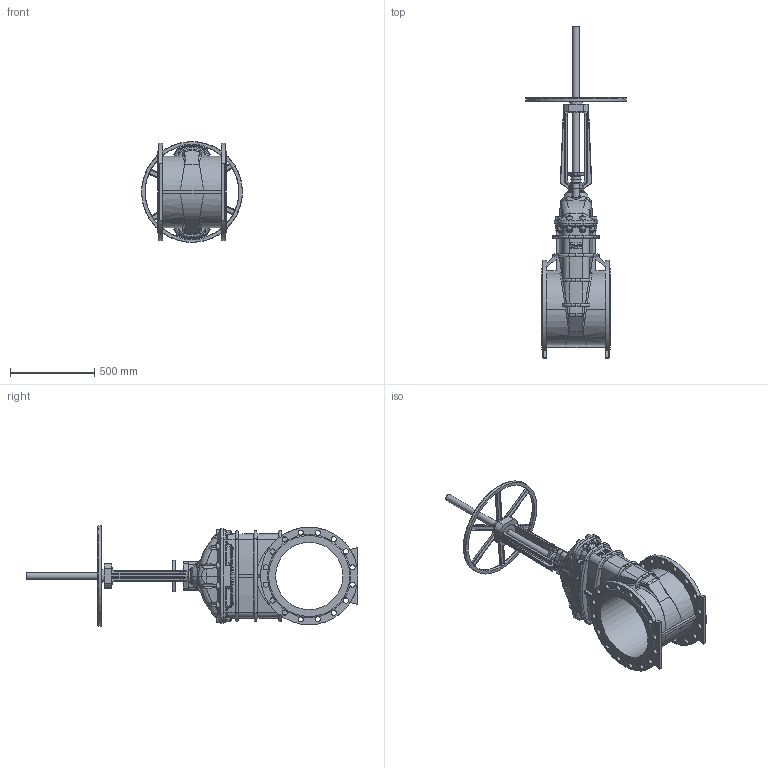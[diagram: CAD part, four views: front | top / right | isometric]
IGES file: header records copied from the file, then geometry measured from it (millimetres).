
Start section: SolidWorks IGES file using analytic representation for surfaces
Global section: file name: \\avksan2\techshare\PBM outline export from Enovia\O_21_34_DN400_41XXXXX open_AA0.igs; native system: SolidWorks 2012; preprocessor: SolidWorks 2012; author: pbm; date: 200212.105454; units: millimetre
Bounding box: 598.51 x 1975 x 598.51 mm (x, y, z)
Surface area: 3223442.4 mm2 (no closed solid volume)
Topology: 0 solids, 0 shells, 1032 faces, 5631 edges, 5563 vertices
Faces by surface type: bspline 528, revolution 504
